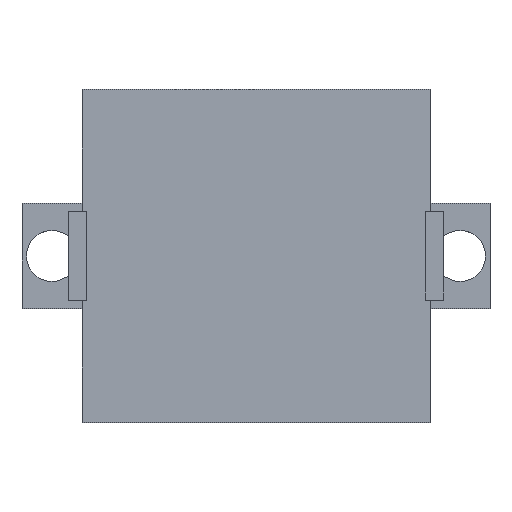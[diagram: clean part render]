
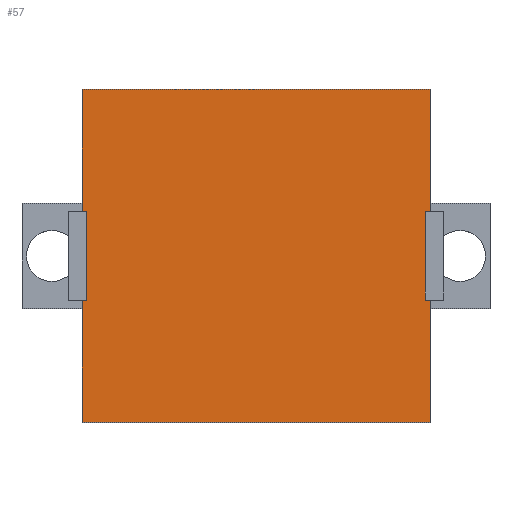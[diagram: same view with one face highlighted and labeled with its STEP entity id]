
A CAD part, top view. The second image highlights one B-rep face of the part: STEP entity #57.
In plain terms, the highlighted planar face has unit normal (0, 0, 1).
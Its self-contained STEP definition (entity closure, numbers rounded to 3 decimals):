
#21 = EDGE_CURVE('',#22,#24,#26,.T.);
#22 = VERTEX_POINT('',#23);
#23 = CARTESIAN_POINT('',(-48.15,-19.7,22.65));
#24 = VERTEX_POINT('',#25);
#25 = CARTESIAN_POINT('',(-48.15,-12.1,22.65));
#26 = LINE('',#27,#28);
#27 = CARTESIAN_POINT('',(-48.15,-19.7,22.65));
#28 = VECTOR('',#29,1.);
#29 = DIRECTION('',(0.,1.,0.));
#57 = ADVANCED_FACE('',(#58),#179,.T.);
#58 = FACE_BOUND('',#59,.T.);
#59 = EDGE_LOOP('',(#60,#61,#69,#77,#85,#93,#101,#109,#117,#125,#133,
    #141,#149,#157,#165,#173));
#60 = ORIENTED_EDGE('',*,*,#21,.F.);
#61 = ORIENTED_EDGE('',*,*,#62,.T.);
#62 = EDGE_CURVE('',#22,#63,#65,.T.);
#63 = VERTEX_POINT('',#64);
#64 = CARTESIAN_POINT('',(-24.95,-19.7,22.65));
#65 = LINE('',#66,#67);
#66 = CARTESIAN_POINT('',(-48.15,-19.7,22.65));
#67 = VECTOR('',#68,1.);
#68 = DIRECTION('',(1.,0.,0.));
#69 = ORIENTED_EDGE('',*,*,#70,.T.);
#70 = EDGE_CURVE('',#63,#71,#73,.T.);
#71 = VERTEX_POINT('',#72);
#72 = CARTESIAN_POINT('',(-24.95,-12.1,22.65));
#73 = LINE('',#74,#75);
#74 = CARTESIAN_POINT('',(-24.95,-19.7,22.65));
#75 = VECTOR('',#76,1.);
#76 = DIRECTION('',(0.,1.,0.));
#77 = ORIENTED_EDGE('',*,*,#78,.T.);
#78 = EDGE_CURVE('',#71,#79,#81,.T.);
#79 = VERTEX_POINT('',#80);
#80 = CARTESIAN_POINT('',(-24.95,-11.54,22.65));
#81 = LINE('',#82,#83);
#82 = CARTESIAN_POINT('',(-24.95,-19.7,22.65));
#83 = VECTOR('',#84,1.);
#84 = DIRECTION('',(0.,1.,0.));
#85 = ORIENTED_EDGE('',*,*,#86,.T.);
#86 = EDGE_CURVE('',#79,#87,#89,.T.);
#87 = VERTEX_POINT('',#88);
#88 = CARTESIAN_POINT('',(-25.25,-11.54,22.65));
#89 = LINE('',#90,#91);
#90 = CARTESIAN_POINT('',(-36.7,-11.54,22.65));
#91 = VECTOR('',#92,1.);
#92 = DIRECTION('',(-1.,0.,0.));
#93 = ORIENTED_EDGE('',*,*,#94,.T.);
#94 = EDGE_CURVE('',#87,#95,#97,.T.);
#95 = VERTEX_POINT('',#96);
#96 = CARTESIAN_POINT('',(-25.25,-5.66,22.65));
#97 = LINE('',#98,#99);
#98 = CARTESIAN_POINT('',(-25.25,-15.62,22.65));
#99 = VECTOR('',#100,1.);
#100 = DIRECTION('',(0.,1.,0.));
#101 = ORIENTED_EDGE('',*,*,#102,.F.);
#102 = EDGE_CURVE('',#103,#95,#105,.T.);
#103 = VERTEX_POINT('',#104);
#104 = CARTESIAN_POINT('',(-24.95,-5.66,22.65));
#105 = LINE('',#106,#107);
#106 = CARTESIAN_POINT('',(-36.7,-5.66,22.65));
#107 = VECTOR('',#108,1.);
#108 = DIRECTION('',(-1.,0.,0.));
#109 = ORIENTED_EDGE('',*,*,#110,.T.);
#110 = EDGE_CURVE('',#103,#111,#113,.T.);
#111 = VERTEX_POINT('',#112);
#112 = CARTESIAN_POINT('',(-24.95,-5.1,22.65));
#113 = LINE('',#114,#115);
#114 = CARTESIAN_POINT('',(-24.95,-19.7,22.65));
#115 = VECTOR('',#116,1.);
#116 = DIRECTION('',(0.,1.,0.));
#117 = ORIENTED_EDGE('',*,*,#118,.T.);
#118 = EDGE_CURVE('',#111,#119,#121,.T.);
#119 = VERTEX_POINT('',#120);
#120 = CARTESIAN_POINT('',(-24.95,2.5,22.65));
#121 = LINE('',#122,#123);
#122 = CARTESIAN_POINT('',(-24.95,-19.7,22.65));
#123 = VECTOR('',#124,1.);
#124 = DIRECTION('',(0.,1.,0.));
#125 = ORIENTED_EDGE('',*,*,#126,.F.);
#126 = EDGE_CURVE('',#127,#119,#129,.T.);
#127 = VERTEX_POINT('',#128);
#128 = CARTESIAN_POINT('',(-48.15,2.5,22.65));
#129 = LINE('',#130,#131);
#130 = CARTESIAN_POINT('',(-48.15,2.5,22.65));
#131 = VECTOR('',#132,1.);
#132 = DIRECTION('',(1.,0.,0.));
#133 = ORIENTED_EDGE('',*,*,#134,.F.);
#134 = EDGE_CURVE('',#135,#127,#137,.T.);
#135 = VERTEX_POINT('',#136);
#136 = CARTESIAN_POINT('',(-48.15,-5.1,22.65));
#137 = LINE('',#138,#139);
#138 = CARTESIAN_POINT('',(-48.15,-19.7,22.65));
#139 = VECTOR('',#140,1.);
#140 = DIRECTION('',(0.,1.,0.));
#141 = ORIENTED_EDGE('',*,*,#142,.F.);
#142 = EDGE_CURVE('',#143,#135,#145,.T.);
#143 = VERTEX_POINT('',#144);
#144 = CARTESIAN_POINT('',(-48.15,-5.66,22.65));
#145 = LINE('',#146,#147);
#146 = CARTESIAN_POINT('',(-48.15,-19.7,22.65));
#147 = VECTOR('',#148,1.);
#148 = DIRECTION('',(0.,1.,0.));
#149 = ORIENTED_EDGE('',*,*,#150,.F.);
#150 = EDGE_CURVE('',#151,#143,#153,.T.);
#151 = VERTEX_POINT('',#152);
#152 = CARTESIAN_POINT('',(-47.85,-5.66,22.65));
#153 = LINE('',#154,#155);
#154 = CARTESIAN_POINT('',(-48.6,-5.66,22.65));
#155 = VECTOR('',#156,1.);
#156 = DIRECTION('',(-1.,0.,0.));
#157 = ORIENTED_EDGE('',*,*,#158,.F.);
#158 = EDGE_CURVE('',#159,#151,#161,.T.);
#159 = VERTEX_POINT('',#160);
#160 = CARTESIAN_POINT('',(-47.85,-11.54,22.65));
#161 = LINE('',#162,#163);
#162 = CARTESIAN_POINT('',(-47.85,-15.62,22.65));
#163 = VECTOR('',#164,1.);
#164 = DIRECTION('',(0.,1.,0.));
#165 = ORIENTED_EDGE('',*,*,#166,.T.);
#166 = EDGE_CURVE('',#159,#167,#169,.T.);
#167 = VERTEX_POINT('',#168);
#168 = CARTESIAN_POINT('',(-48.15,-11.54,22.65));
#169 = LINE('',#170,#171);
#170 = CARTESIAN_POINT('',(-48.6,-11.54,22.65));
#171 = VECTOR('',#172,1.);
#172 = DIRECTION('',(-1.,0.,0.));
#173 = ORIENTED_EDGE('',*,*,#174,.F.);
#174 = EDGE_CURVE('',#24,#167,#175,.T.);
#175 = LINE('',#176,#177);
#176 = CARTESIAN_POINT('',(-48.15,-19.7,22.65));
#177 = VECTOR('',#178,1.);
#178 = DIRECTION('',(0.,1.,0.));
#179 = PLANE('',#180);
#180 = AXIS2_PLACEMENT_3D('',#181,#182,#183);
#181 = CARTESIAN_POINT('',(-48.15,-19.7,22.65));
#182 = DIRECTION('',(0.,0.,1.));
#183 = DIRECTION('',(1.,0.,0.));
